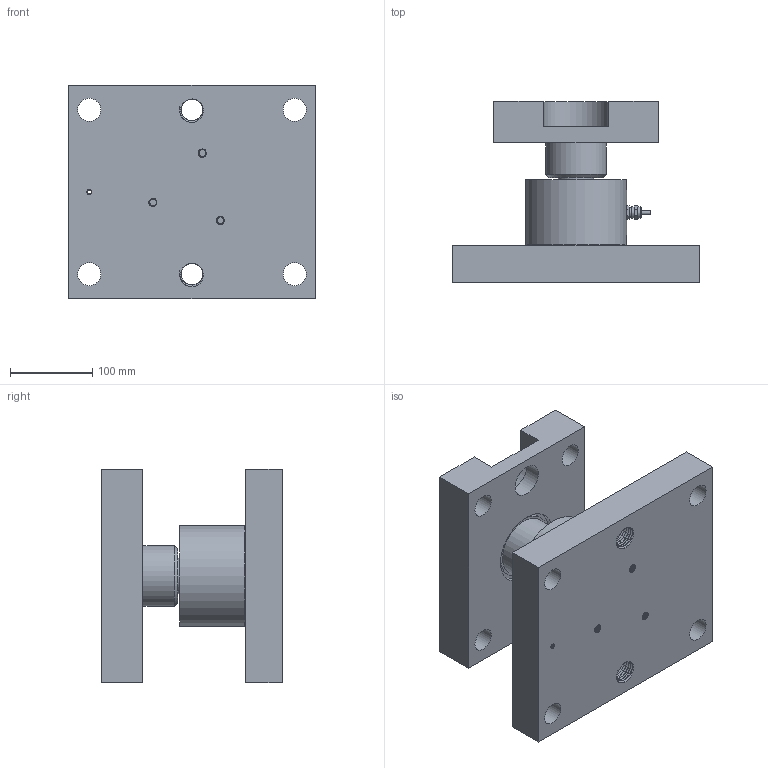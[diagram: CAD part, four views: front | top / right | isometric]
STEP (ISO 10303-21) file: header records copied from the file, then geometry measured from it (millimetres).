
FILE_DESCRIPTION(/* description */ (''),/* implementation_level */ '2;1');
FILE_NAME(/* name */ 'C:/Users/fardi/Dropbox/Work/Anyload/Load Cell Models/Product Catalog 3D/Weight Modules/276/276EHM1/276EHM1-100t v4.step',/* time_stamp */ '2020-05-01T13:04:18-07:00',/* author */ (''),/* organization */ (''),/* preprocessor_version */ 'ST-DEVELOPER v18.1',/* originating_system */ 'Autodesk Translation Framework v9.2.0.1227',/* authorisation */ '');
FILE_SCHEMA (('AUTOMOTIVE_DESIGN { 1 0 10303 214 3 1 1 }'));
Products named in the file (5): 276EHM1-100t; Base; 276EH-100t; Top; Adapter
Assembly tree (4 placements, depth 2):
  276EHM1-100t
    Base
    276EH-100t
    Top
    Adapter
Bounding box: 300 x 220 x 260 mm (x, y, z)
Volume: 6560868 mm3; surface area: 497452.4 mm2
Topology: 4 solids, 4 shells, 487 faces, 1325 edges, 860 vertices
Faces by surface type: cylinder 418, plane 51, bspline 13, torus 4, cone 1
Full cylindrical faces by diameter (mm): 5.035 x56, 5.1 x1, 6.147 x54, 8.526 x93, 10.198 x105, 10.5 x3, 12 x1, 13.5 x2, 13.6 x1, 15 x3, 18 x1, 26.491 x26, 28 x8, 30.392 x28, 40 x2, 43 x1, 50 x1, 74 x2, 77 x1, 80 x1, 90 x1, 123 x1
Entity records: 46633 total; most frequent: CARTESIAN_POINT 35449, ORIENTED_EDGE 2648, DIRECTION 1733, EDGE_CURVE 1324, VERTEX_POINT 860, B_SPLINE_CURVE_WITH_KNOTS 698, AXIS2_PLACEMENT_3D 624, EDGE_LOOP 540
